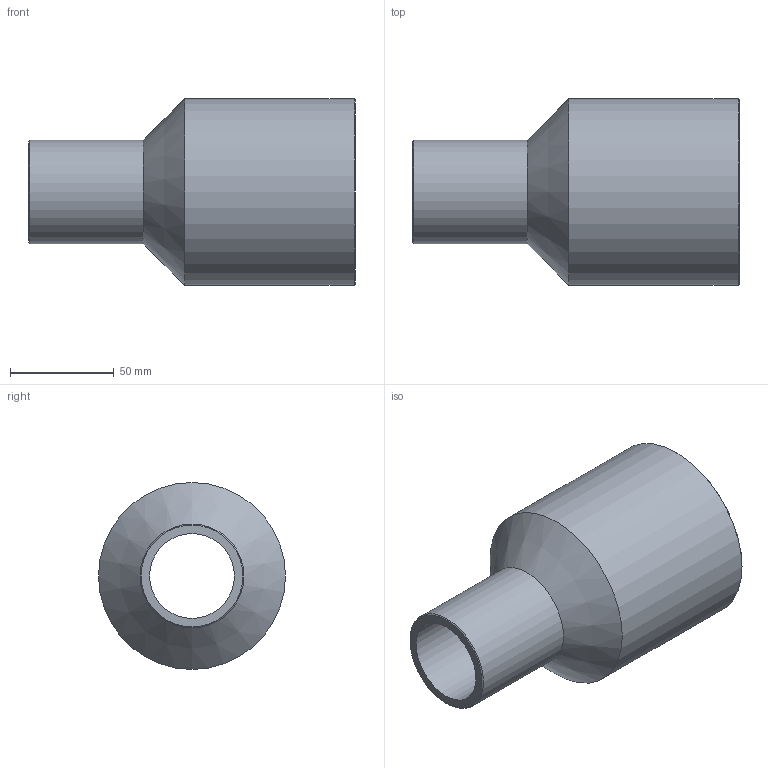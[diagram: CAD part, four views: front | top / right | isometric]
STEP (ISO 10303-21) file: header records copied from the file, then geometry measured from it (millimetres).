
FILE_DESCRIPTION(/* description */ ('Unknown'),/* implementation_level */ '2;1');
FILE_NAME(/* name */ 'RP090050C',/* time_stamp */ '2021-09-17T15:05:07+02:00',/* author */ ('Unknown'),/* organization */ ('Unknown'),/* preprocessor_version */ 'ST-DEVELOPER v16.7',/* originating_system */ 'Solid Edge',/* authorisation */ 'Unknown');
FILE_SCHEMA (('AUTOMOTIVE_DESIGN {1 0 10303 214 3 1 1}'));
Length unit declared in the file: millimetre
Products named in the file (1): RP090050C
Bounding box: 157 x 90 x 90 mm (x, y, z)
Volume: 250385 mm3; surface area: 70677.6 mm2
Topology: 1 solids, 1 shells, 10 faces, 19 edges, 11 vertices
Faces by surface type: cylinder 4, cone 4, plane 2
Full cylindrical faces by diameter (mm): 40.8 x1, 50 x1, 73.6 x1, 90 x1
Entity records: 238 total; most frequent: DIRECTION 42, CARTESIAN_POINT 31, AXIS2_PLACEMENT_3D 21, ORIENTED_EDGE 20, EDGE_LOOP 20, FACE_BOUND 20, EDGE_CURVE 10, VERTEX_POINT 10
